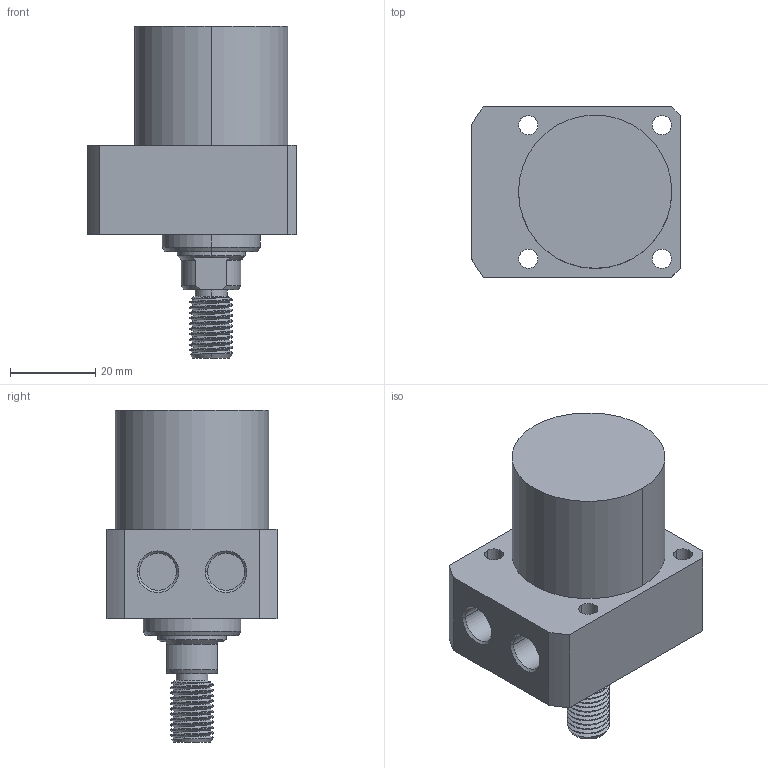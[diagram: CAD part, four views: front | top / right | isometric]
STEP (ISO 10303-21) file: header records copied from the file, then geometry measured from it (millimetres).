
FILE_DESCRIPTION((' '),'2;1');
FILE_NAME( 'TLLR-036CT-020.STEP.stp', '2025-10-24T16:35:46', (' '), ('--- Datakit www.datakit.com---'), ' Datakit CrossCadWare V2024.1 Dec 21 2023', 'Mastercam 2025', ' ');
FILE_SCHEMA(('AUTOMOTIVE_DESIGN { 1 0 10303 214 1 1 1 1 }'));
Length unit declared in the file: millimetre
Products named in the file (1): TLLR-036CT-020
Bounding box: 49 x 40 x 78 mm (x, y, z)
Volume: 70482.9 mm3; surface area: 13861.8 mm2
Topology: 1 solids, 1 shells, 87 faces, 290 edges, 213 vertices
Faces by surface type: cylinder 50, plane 21, cone 14, bspline 2
Entity records: 7487 total; most frequent: CARTESIAN_POINT 4868, ORIENTED_EDGE 580, DIRECTION 464, EDGE_CURVE 290, VERTEX_POINT 213, AXIS2_PLACEMENT_3D 187, EDGE_LOOP 103, CIRCLE 101
